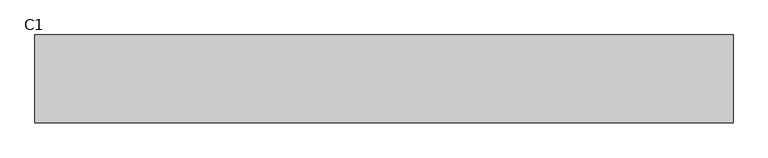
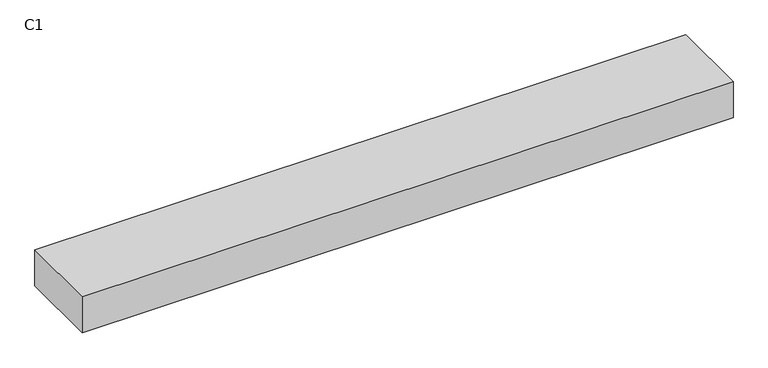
"""IFC4 building model written with IfcOpenShell, lengths in millimetres: light fixture geometry, AI_Luminaire_Réglette locaux techniques et parkings : C1."""

from ifc_helpers import new_model, si_unit, frame, origin, place, context, project, spatial, polyline, outline, extrude, source, transform, mapped, element, save


def c1_2018c24c(model_context):
    return source(origin(), model_context, "Body", "SweptSolid", [
        extrude(outline(polyline([(775.0, 97.5), (775.0, -97.5), (-775.0, -97.5), (-775.0, 97.5), (775.0, 97.5)])), frame((0.0, 0.0, -90.0), z_axis=(0.0, 0.0, 1.0), x_axis=(1.0, 0.0, 0.0)), (0.0, 0.0, 1.0), 90.0),
    ])


if __name__ == "__main__":
    model = new_model("IFC4")
    model_context = context("Model", 3, world=origin())
    ifc_project = project(units=[si_unit("LENGTHUNIT", "METRE", prefix="MILLI")], contexts=[model_context])
    site = spatial("IfcSite", under=ifc_project)
    building = spatial("IfcBuilding", under=site)
    placement = place(None, origin())
    c1_shape = c1_2018c24c(model_context)
    element("IfcLightFixture", 1, ObjectType="AI_Luminaire_Réglette locaux techniques et parkings : C1", at=placement, inside=building, context=model_context, shape_type="MappedRepresentation", body=[
        mapped(c1_shape, transform((0.0, 0.0, 0.0), x_axis=(1.0, 0.0, 0.0), y_axis=(0.0, 1.0, 0.0), z_axis=(0.0, 0.0, 1.0))),
    ])
    save(model, "model.ifc")
